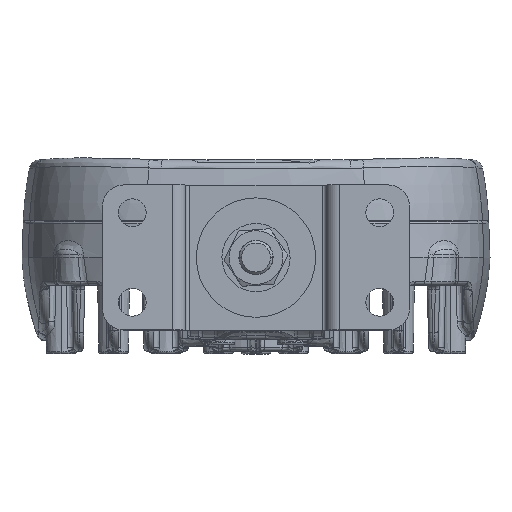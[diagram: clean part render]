
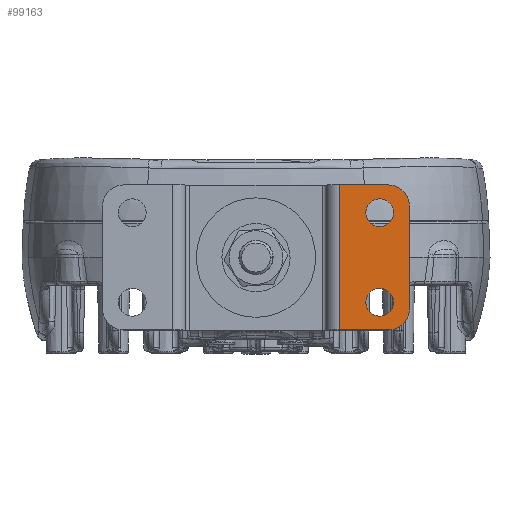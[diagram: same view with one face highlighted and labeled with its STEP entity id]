
A CAD part, top view. The second image highlights one B-rep face of the part: STEP entity #99163.
In plain terms, the highlighted planar face has unit normal (0, 0, 1).
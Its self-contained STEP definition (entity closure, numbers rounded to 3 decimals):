
#1500 = VERTEX_POINT ( 'NONE', #67935 ) ;
#2098 = EDGE_LOOP ( 'NONE', ( #125949, #103595, #41982, #10491, #85160, #9549 ) ) ;
#2153 = EDGE_CURVE ( 'NONE', #1500, #95046, #96031, .T. ) ;
#7369 = EDGE_CURVE ( 'NONE', #94006, #1500, #62478, .T. ) ;
#9549 = ORIENTED_EDGE ( 'NONE', *, *, #7369, .F. ) ;
#10491 = ORIENTED_EDGE ( 'NONE', *, *, #126906, .T. ) ;
#10499 = FACE_BOUND ( 'NONE', #11414, .T. ) ;
#11414 = EDGE_LOOP ( 'NONE', ( #107582, #96537 ) ) ;
#12902 = DIRECTION ( 'NONE',  ( -1., 0., 0. ) ) ;
#12916 = AXIS2_PLACEMENT_3D ( 'NONE', #112315, #52251, #122414 ) ;
#13066 = LINE ( 'NONE', #23596, #66529 ) ;
#13572 = CARTESIAN_POINT ( 'NONE',  ( -29., 10.5, 14. ) ) ;
#14000 = DIRECTION ( 'NONE',  ( 0., 0., 1. ) ) ;
#16611 = EDGE_CURVE ( 'NONE', #17286, #74442, #91194, .T. ) ;
#17286 = VERTEX_POINT ( 'NONE', #52057 ) ;
#18143 = DIRECTION ( 'NONE',  ( 0., 0., 1. ) ) ;
#21448 = EDGE_CURVE ( 'NONE', #74442, #17286, #59775, .T. ) ;
#23063 = DIRECTION ( 'NONE',  ( 1., 0., 0. ) ) ;
#23203 = DIRECTION ( 'NONE',  ( 0., 0., -1. ) ) ;
#23596 = CARTESIAN_POINT ( 'NONE',  ( -36., 17., 14. ) ) ;
#23623 = DIRECTION ( 'NONE',  ( -1., 0., 0. ) ) ;
#31753 = CIRCLE ( 'NONE', #87715, 3.25 ) ;
#33715 = DIRECTION ( 'NONE',  ( 0., -1., 0. ) ) ;
#35648 = VECTOR ( 'NONE', #119975, 1000. ) ;
#39693 = CARTESIAN_POINT ( 'NONE',  ( -19.5, 17., 14. ) ) ;
#41982 = ORIENTED_EDGE ( 'NONE', *, *, #67665, .T. ) ;
#42522 = EDGE_CURVE ( 'NONE', #94006, #126123, #117071, .T. ) ;
#42894 = CIRCLE ( 'NONE', #74920, 5. ) ;
#43482 = FACE_BOUND ( 'NONE', #116982, .T. ) ;
#52057 = CARTESIAN_POINT ( 'NONE',  ( -32.25, 10.5, 14. ) ) ;
#52182 = CARTESIAN_POINT ( 'NONE',  ( -16.5, -17., 14. ) ) ;
#52251 = DIRECTION ( 'NONE',  ( 0., 0., -1. ) ) ;
#52533 = DIRECTION ( 'NONE',  ( 0., 0., 1. ) ) ;
#52738 = CARTESIAN_POINT ( 'NONE',  ( -29., -10.5, 14. ) ) ;
#53241 = CARTESIAN_POINT ( 'NONE',  ( -36., -12., 14. ) ) ;
#54693 = AXIS2_PLACEMENT_3D ( 'NONE', #13572, #83873, #23623 ) ;
#54936 = EDGE_CURVE ( 'NONE', #56657, #62387, #99691, .T. ) ;
#56657 = VERTEX_POINT ( 'NONE', #97149 ) ;
#59578 = CARTESIAN_POINT ( 'NONE',  ( -19.5, 17., 14. ) ) ;
#59775 = CIRCLE ( 'NONE', #54693, 3.25 ) ;
#61265 = VERTEX_POINT ( 'NONE', #104720 ) ;
#61696 = CARTESIAN_POINT ( 'NONE',  ( -31., 17., 14. ) ) ;
#61947 = AXIS2_PLACEMENT_3D ( 'NONE', #122661, #52533, #23063 ) ;
#62387 = VERTEX_POINT ( 'NONE', #123624 ) ;
#62478 = LINE ( 'NONE', #39693, #35648 ) ;
#62772 = DIRECTION ( 'NONE',  ( -1., 0., 0. ) ) ;
#62884 = DIRECTION ( 'NONE',  ( 1., 0., 0. ) ) ;
#66529 = VECTOR ( 'NONE', #33715, 1000. ) ;
#66995 = VECTOR ( 'NONE', #12902, 1000. ) ;
#67665 = EDGE_CURVE ( 'NONE', #61265, #68796, #13066, .T. ) ;
#67935 = CARTESIAN_POINT ( 'NONE',  ( -19.5, -17., 14. ) ) ;
#68796 = VERTEX_POINT ( 'NONE', #53241 ) ;
#69444 = VECTOR ( 'NONE', #62772, 1000. ) ;
#73988 = ORIENTED_EDGE ( 'NONE', *, *, #21448, .T. ) ;
#74265 = CARTESIAN_POINT ( 'NONE',  ( -31., 12., 14. ) ) ;
#74442 = VERTEX_POINT ( 'NONE', #100013 ) ;
#74920 = AXIS2_PLACEMENT_3D ( 'NONE', #78391, #18143, #88436 ) ;
#78391 = CARTESIAN_POINT ( 'NONE',  ( -31., -12., 14. ) ) ;
#83210 = CARTESIAN_POINT ( 'NONE',  ( -16.5, 17., 14. ) ) ;
#83313 = PLANE ( 'NONE',  #61947 ) ;
#83453 = CARTESIAN_POINT ( 'NONE',  ( -29., -10.5, 14. ) ) ;
#83873 = DIRECTION ( 'NONE',  ( 0., 0., -1. ) ) ;
#84290 = DIRECTION ( 'NONE',  ( 1., 0., 0. ) ) ;
#85160 = ORIENTED_EDGE ( 'NONE', *, *, #2153, .F. ) ;
#87715 = AXIS2_PLACEMENT_3D ( 'NONE', #83453, #23203, #93470 ) ;
#88436 = DIRECTION ( 'NONE',  ( 1., 0., 0. ) ) ;
#90639 = FACE_OUTER_BOUND ( 'NONE', #2098, .T. ) ;
#91194 = CIRCLE ( 'NONE', #12916, 3.25 ) ;
#93470 = DIRECTION ( 'NONE',  ( 1., 0., 0. ) ) ;
#94006 = VERTEX_POINT ( 'NONE', #59578 ) ;
#95046 = VERTEX_POINT ( 'NONE', #126496 ) ;
#96031 = LINE ( 'NONE', #52182, #69444 ) ;
#96537 = ORIENTED_EDGE ( 'NONE', *, *, #54936, .T. ) ;
#97149 = CARTESIAN_POINT ( 'NONE',  ( -25.75, -10.5, 14. ) ) ;
#99163 = ADVANCED_FACE ( 'NONE', ( #10499, #43482, #90639 ), #83313, .T. ) ;
#99691 = CIRCLE ( 'NONE', #110763, 3.25 ) ;
#100013 = CARTESIAN_POINT ( 'NONE',  ( -25.75, 10.5, 14. ) ) ;
#102372 = CIRCLE ( 'NONE', #114519, 5. ) ;
#103595 = ORIENTED_EDGE ( 'NONE', *, *, #129845, .T. ) ;
#104720 = CARTESIAN_POINT ( 'NONE',  ( -36., 12., 14. ) ) ;
#107582 = ORIENTED_EDGE ( 'NONE', *, *, #129732, .T. ) ;
#110763 = AXIS2_PLACEMENT_3D ( 'NONE', #52738, #122866, #62884 ) ;
#112315 = CARTESIAN_POINT ( 'NONE',  ( -29., 10.5, 14. ) ) ;
#113691 = ORIENTED_EDGE ( 'NONE', *, *, #16611, .T. ) ;
#114519 = AXIS2_PLACEMENT_3D ( 'NONE', #74265, #14000, #84290 ) ;
#116982 = EDGE_LOOP ( 'NONE', ( #113691, #73988 ) ) ;
#117071 = LINE ( 'NONE', #83210, #66995 ) ;
#119975 = DIRECTION ( 'NONE',  ( 0., -1., 0. ) ) ;
#122414 = DIRECTION ( 'NONE',  ( -1., 0., 0. ) ) ;
#122661 = CARTESIAN_POINT ( 'NONE',  ( -16.5, 17., 14. ) ) ;
#122866 = DIRECTION ( 'NONE',  ( 0., 0., -1. ) ) ;
#123624 = CARTESIAN_POINT ( 'NONE',  ( -32.25, -10.5, 14. ) ) ;
#125949 = ORIENTED_EDGE ( 'NONE', *, *, #42522, .T. ) ;
#126123 = VERTEX_POINT ( 'NONE', #61696 ) ;
#126496 = CARTESIAN_POINT ( 'NONE',  ( -31., -17., 14. ) ) ;
#126906 = EDGE_CURVE ( 'NONE', #68796, #95046, #42894, .T. ) ;
#129732 = EDGE_CURVE ( 'NONE', #62387, #56657, #31753, .T. ) ;
#129845 = EDGE_CURVE ( 'NONE', #126123, #61265, #102372, .T. ) ;
